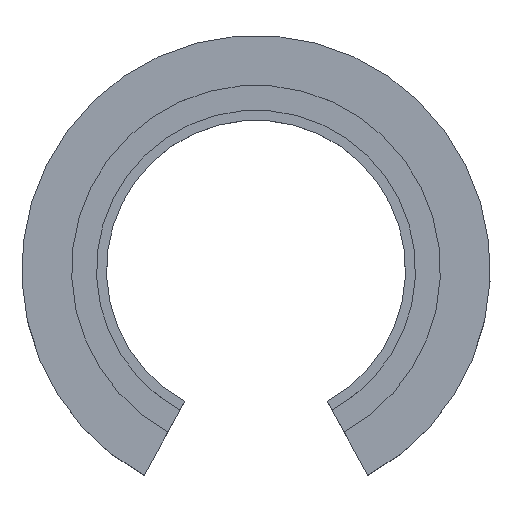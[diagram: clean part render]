
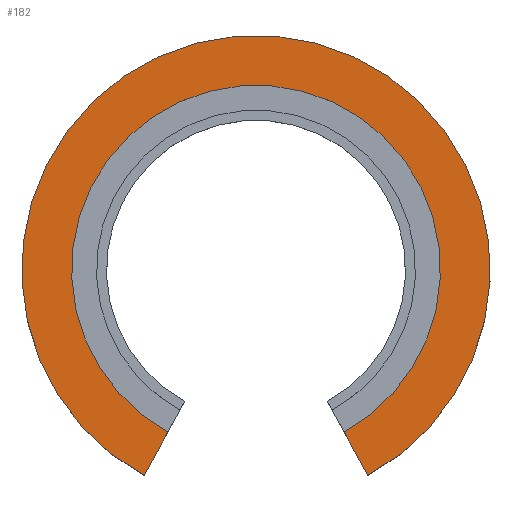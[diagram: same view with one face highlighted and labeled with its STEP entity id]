
A CAD part, top view. The second image highlights one B-rep face of the part: STEP entity #182.
In plain terms, the highlighted planar face has unit normal (0, 0, 1).
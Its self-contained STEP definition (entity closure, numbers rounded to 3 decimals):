
#22=CIRCLE('',#231,18.5);
#23=CIRCLE('',#233,23.5);
#36=FACE_OUTER_BOUND('',#46,.T.);
#46=EDGE_LOOP('',(#151,#152,#153,#154));
#52=LINE('',#307,#68);
#66=LINE('',#335,#82);
#68=VECTOR('',#249,10.);
#82=VECTOR('',#265,10.);
#83=VERTEX_POINT('',#303);
#85=VERTEX_POINT('',#306);
#92=VERTEX_POINT('',#321);
#98=VERTEX_POINT('',#333);
#100=EDGE_CURVE('',#85,#83,#52,.T.);
#114=EDGE_CURVE('',#92,#98,#66,.T.);
#118=EDGE_CURVE('',#98,#85,#22,.T.);
#119=EDGE_CURVE('',#83,#92,#23,.T.);
#151=ORIENTED_EDGE('',*,*,#100,.T.);
#152=ORIENTED_EDGE('',*,*,#119,.T.);
#153=ORIENTED_EDGE('',*,*,#114,.T.);
#154=ORIENTED_EDGE('',*,*,#118,.T.);
#174=PLANE('',#232);
#182=ADVANCED_FACE('',(#36),#174,.T.);
#231=AXIS2_PLACEMENT_3D('',#342,#278,#279);
#232=AXIS2_PLACEMENT_3D('',#343,#280,#281);
#233=AXIS2_PLACEMENT_3D('',#344,#282,#283);
#249=DIRECTION('',(0.477,-0.879,0.));
#265=DIRECTION('',(0.477,0.879,0.));
#278=DIRECTION('center_axis',(0.,0.,-1.));
#279=DIRECTION('ref_axis',(-1.,0.,0.));
#280=DIRECTION('center_axis',(0.,0.,1.));
#281=DIRECTION('ref_axis',(1.,0.,0.));
#282=DIRECTION('center_axis',(0.,0.,1.));
#283=DIRECTION('ref_axis',(1.,0.,0.));
#303=CARTESIAN_POINT('',(11.213,-20.652,2.5));
#306=CARTESIAN_POINT('',(8.827,-16.258,2.5));
#307=CARTESIAN_POINT('',(0.,0.,2.5));
#321=CARTESIAN_POINT('',(-11.213,-20.652,2.5));
#333=CARTESIAN_POINT('',(-8.827,-16.258,2.5));
#335=CARTESIAN_POINT('',(-7.901,-14.553,2.5));
#342=CARTESIAN_POINT('Origin',(0.,0.,2.5));
#343=CARTESIAN_POINT('Origin',(0.,0.,2.5));
#344=CARTESIAN_POINT('Origin',(0.,0.,2.5));
